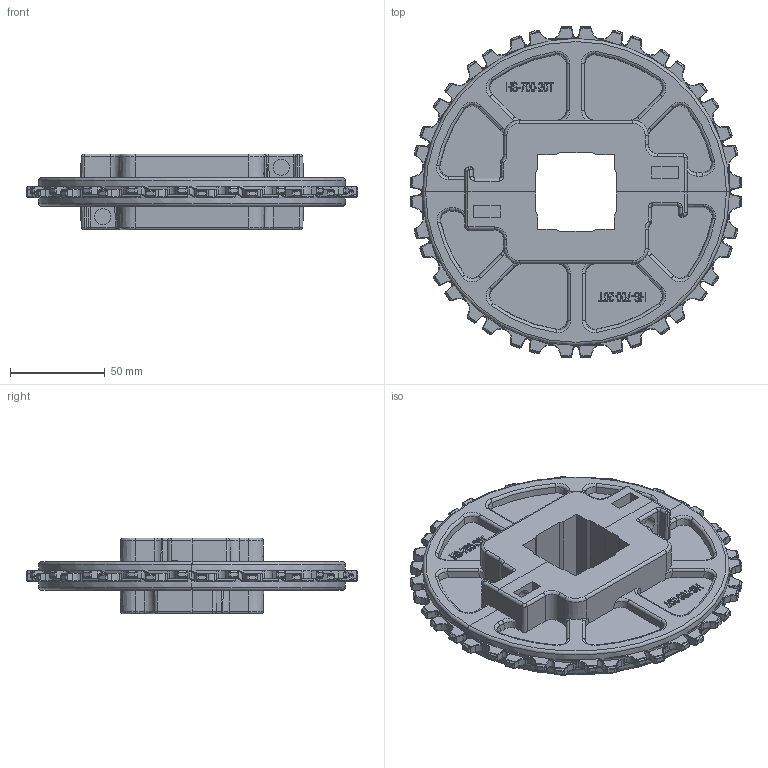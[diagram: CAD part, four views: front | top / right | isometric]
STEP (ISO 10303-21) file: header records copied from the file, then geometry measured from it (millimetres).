
FILE_DESCRIPTION(/* description */ (''),/* implementation_level */ '2;1');
FILE_NAME(/* name */ 'HS-700A-N-20T-DK.stp',/* time_stamp */ '2025-09-12T10:47:30+08:00',/* author */ (''),/* organization */ (''),/* preprocessor_version */ 'ST-DEVELOPER v15',/* originating_system */ 'SIEMENS PLM Software NX 8.5',/* authorisation */ '');
FILE_SCHEMA (('AP203_CONFIGURATION_CONTROLLED_3D_DESIGN_OF_MECHANICAL_PARTS_AND_ASSEMBLIES_MIM_LF { 1 0 10303 403 2 1 2}'));
Products named in the file (1): Admi2A20536371rz
Bounding box: 175.07 x 175.07 x 40 mm (x, y, z)
Volume: 335306.6 mm3; surface area: 84548.2 mm2
Topology: 2 solids, 2 shells, 2472 faces, 6112 edges, 3666 vertices
Faces by surface type: cylinder 952, plane 660, bspline 598, torus 176, cone 44, extrusion 42
Full cylindrical faces by diameter (mm): 8.5 x8
Entity records: 103120 total; most frequent: CARTESIAN_POINT 30195, ORIENTED_EDGE 12108, DIRECTION 11286, EDGE_CURVE 6054, AXIS2_PLACEMENT_3D 4387, VERTEX_POINT 3652, EDGE_LOOP 2546, VECTOR 2512
